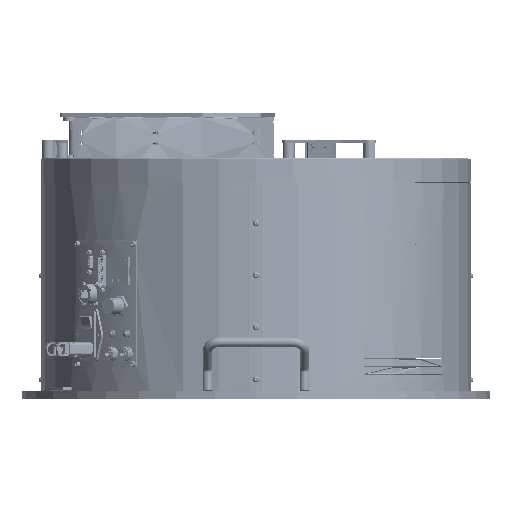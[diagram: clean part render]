
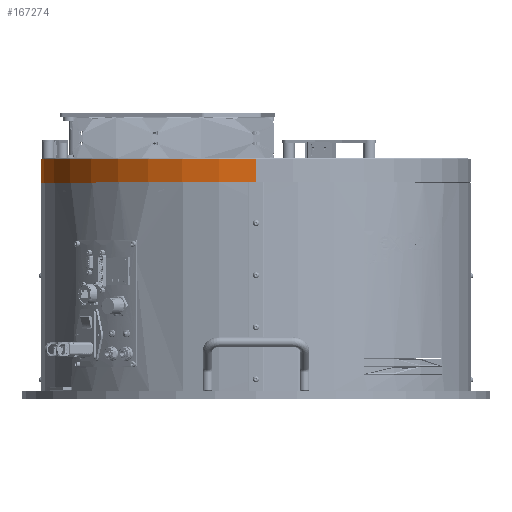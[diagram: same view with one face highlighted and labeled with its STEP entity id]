
A CAD part, top view. The second image highlights one B-rep face of the part: STEP entity #167274.
In plain terms, the highlighted cylindrical face has radius 266.5 mm (diameter 533 mm), a partial arc.
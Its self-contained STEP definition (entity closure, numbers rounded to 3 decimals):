
#9267 = CIRCLE ( 'NONE', #388927, 266.5 ) ;
#53795 = CYLINDRICAL_SURFACE ( 'NONE', #387606, 266.5 ) ;
#55718 = ORIENTED_EDGE ( 'NONE', *, *, #450056, .T. ) ;
#57904 = VERTEX_POINT ( 'NONE', #67368 ) ;
#67368 = CARTESIAN_POINT ( 'NONE',  ( 0., -266.5, 29. ) ) ;
#76158 = VECTOR ( 'NONE', #272465, 1000. ) ;
#78578 = ORIENTED_EDGE ( 'NONE', *, *, #236936, .F. ) ;
#101056 = EDGE_LOOP ( 'NONE', ( #78578, #55718, #159887, #210462 ) ) ;
#116557 = CIRCLE ( 'NONE', #160289, 266.5 ) ;
#124624 = DIRECTION ( 'NONE',  ( -1., 0., 0. ) ) ;
#149308 = DIRECTION ( 'NONE',  ( 1., 0., 0. ) ) ;
#154427 = FACE_OUTER_BOUND ( 'NONE', #101056, .T. ) ;
#159887 = ORIENTED_EDGE ( 'NONE', *, *, #188822, .T. ) ;
#160289 = AXIS2_PLACEMENT_3D ( 'NONE', #220145, #320998, #149308 ) ;
#167274 = ADVANCED_FACE ( 'NONE', ( #154427 ), #53795, .T. ) ;
#173601 = DIRECTION ( 'NONE',  ( 0., 0., -1. ) ) ;
#188822 = EDGE_CURVE ( 'NONE', #361744, #353731, #279295, .T. ) ;
#210462 = ORIENTED_EDGE ( 'NONE', *, *, #262151, .T. ) ;
#220145 = CARTESIAN_POINT ( 'NONE',  ( 0., 0., 29. ) ) ;
#223830 = CARTESIAN_POINT ( 'NONE',  ( 0., 0., 0. ) ) ;
#236936 = EDGE_CURVE ( 'NONE', #57904, #387921, #345181, .T. ) ;
#256032 = DIRECTION ( 'NONE',  ( 1., 0., 0. ) ) ;
#259707 = CARTESIAN_POINT ( 'NONE',  ( 0., 0., 30. ) ) ;
#262151 = EDGE_CURVE ( 'NONE', #353731, #387921, #9267, .T. ) ;
#266472 = DIRECTION ( 'NONE',  ( 0., 0., -1. ) ) ;
#272465 = DIRECTION ( 'NONE',  ( 0., 0., -1. ) ) ;
#279295 = LINE ( 'NONE', #450646, #76158 ) ;
#320998 = DIRECTION ( 'NONE',  ( 0., 0., -1. ) ) ;
#340212 = CARTESIAN_POINT ( 'NONE',  ( -266.5, 0., 29. ) ) ;
#345181 = LINE ( 'NONE', #450228, #452035 ) ;
#353731 = VERTEX_POINT ( 'NONE', #441068 ) ;
#361744 = VERTEX_POINT ( 'NONE', #340212 ) ;
#372873 = CARTESIAN_POINT ( 'NONE',  ( 0., -266.5, 0. ) ) ;
#387606 = AXIS2_PLACEMENT_3D ( 'NONE', #259707, #266472, #124624 ) ;
#387921 = VERTEX_POINT ( 'NONE', #372873 ) ;
#388927 = AXIS2_PLACEMENT_3D ( 'NONE', #223830, #431919, #256032 ) ;
#431919 = DIRECTION ( 'NONE',  ( 0., 0., 1. ) ) ;
#441068 = CARTESIAN_POINT ( 'NONE',  ( -266.5, 0., 0. ) ) ;
#450056 = EDGE_CURVE ( 'NONE', #57904, #361744, #116557, .T. ) ;
#450228 = CARTESIAN_POINT ( 'NONE',  ( 0., -266.5, 30. ) ) ;
#450646 = CARTESIAN_POINT ( 'NONE',  ( -266.5, 0., 30. ) ) ;
#452035 = VECTOR ( 'NONE', #173601, 1000. ) ;
